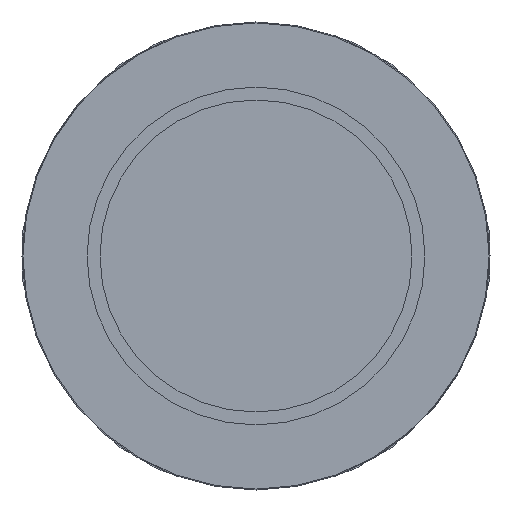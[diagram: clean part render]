
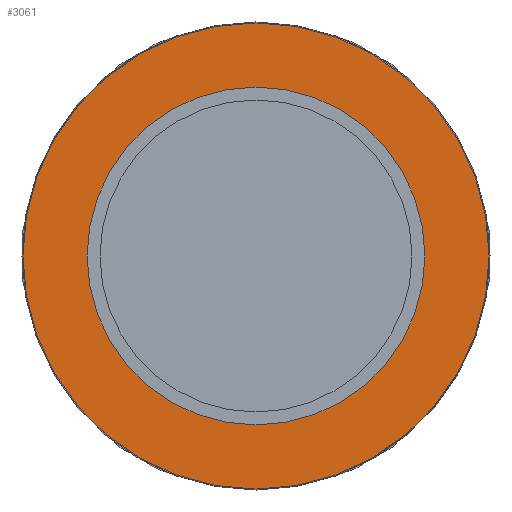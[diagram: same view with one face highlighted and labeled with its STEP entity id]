
A CAD part, front view. The second image highlights one B-rep face of the part: STEP entity #3061.
In plain terms, the highlighted planar face has unit normal (0, -1, 0).
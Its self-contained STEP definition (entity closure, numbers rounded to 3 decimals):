
#3027=CARTESIAN_POINT('',(-27.5,-50.8,0.0));
#3028=VERTEX_POINT('',#3027);
#3029=CARTESIAN_POINT('',(0.0,-50.8,0.0));
#3030=DIRECTION('',(0.0,1.0,0.0));
#3031=DIRECTION('',(-1.0,0.0,0.0));
#3032=AXIS2_PLACEMENT_3D('',#3029,#3030,#3031);
#3033=CIRCLE('',#3032,27.5);
#3034=EDGE_CURVE('',#3028,#3028,#3033,.T.);
#3042=CARTESIAN_POINT('',(-32.725,-50.8,0.0));
#3043=DIRECTION('',(0.0,-1.0,0.0));
#3044=DIRECTION('',(0.0,0.0,-1.0));
#3045=AXIS2_PLACEMENT_3D('',#3042,#3043,#3044);
#3046=PLANE('',#3045);
#3047=CARTESIAN_POINT('',(-37.95,-50.8,0.0));
#3048=VERTEX_POINT('',#3047);
#3049=CARTESIAN_POINT('',(0.0,-50.8,0.0));
#3050=DIRECTION('',(0.0,1.0,0.0));
#3051=DIRECTION('',(-1.0,0.0,0.0));
#3052=AXIS2_PLACEMENT_3D('',#3049,#3050,#3051);
#3053=CIRCLE('',#3052,37.95);
#3054=EDGE_CURVE('',#3048,#3048,#3053,.T.);
#3055=ORIENTED_EDGE('',*,*,#3054,.F.);
#3056=EDGE_LOOP('',(#3055));
#3057=FACE_OUTER_BOUND('',#3056,.T.);
#3058=ORIENTED_EDGE('',*,*,#3034,.T.);
#3059=EDGE_LOOP('',(#3058));
#3060=FACE_BOUND('',#3059,.T.);
#3061=ADVANCED_FACE('',(#3057,#3060),#3046,.T.);
